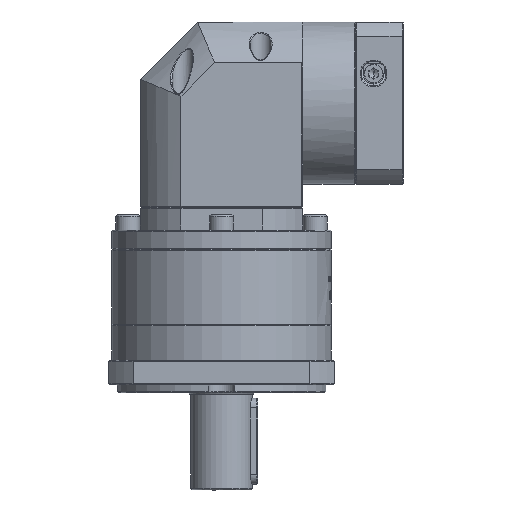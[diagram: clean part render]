
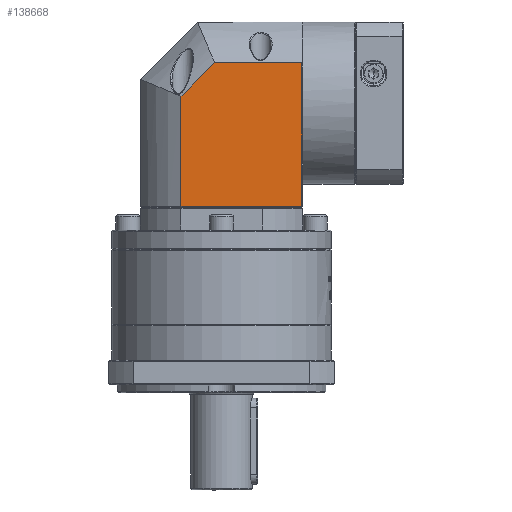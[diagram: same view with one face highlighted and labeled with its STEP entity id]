
A CAD part, front view. The second image highlights one B-rep face of the part: STEP entity #138668.
In plain terms, the highlighted planar face has unit normal (0, -1, 0).
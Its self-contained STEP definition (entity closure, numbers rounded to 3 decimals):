
#4782 = CARTESIAN_POINT ( 'NONE',  ( -44.321, -149.886, -38.442 ) ) ;
#5384 = VECTOR ( 'NONE', #98775, 1000. ) ;
#6949 = CARTESIAN_POINT ( 'NONE',  ( -44.321, -149.886, 19.241 ) ) ;
#13572 = EDGE_CURVE ( 'NONE', #102843, #139095, #149830, .T. ) ;
#20197 = LINE ( 'NONE', #167782, #5384 ) ;
#21088 = LINE ( 'NONE', #171768, #29588 ) ;
#21971 = EDGE_CURVE ( 'NONE', #38717, #90450, #20197, .T. ) ;
#27629 = DIRECTION ( 'NONE',  ( 0., 0., -1. ) ) ;
#29588 = VECTOR ( 'NONE', #64017, 1000. ) ;
#37347 = CARTESIAN_POINT ( 'NONE',  ( 18.892, -149.886, 36.772 ) ) ;
#38717 = VERTEX_POINT ( 'NONE', #4782 ) ;
#39312 = VERTEX_POINT ( 'NONE', #103209 ) ;
#44629 = VECTOR ( 'NONE', #128862, 1000. ) ;
#50514 = LINE ( 'NONE', #136485, #141986 ) ;
#58569 = ORIENTED_EDGE ( 'NONE', *, *, #135851, .F. ) ;
#64017 = DIRECTION ( 'NONE',  ( 1., 0., 0. ) ) ;
#64194 = CARTESIAN_POINT ( 'NONE',  ( -26.791, -149.886, 36.772 ) ) ;
#74541 = AXIS2_PLACEMENT_3D ( 'NONE', #155392, #142828, #116088 ) ;
#90450 = VERTEX_POINT ( 'NONE', #129637 ) ;
#94014 = DIRECTION ( 'NONE',  ( 1., 0., 0. ) ) ;
#98775 = DIRECTION ( 'NONE',  ( 0., 0., 1. ) ) ;
#101906 = LINE ( 'NONE', #6949, #44629 ) ;
#102843 = VERTEX_POINT ( 'NONE', #64194 ) ;
#103209 = CARTESIAN_POINT ( 'NONE',  ( 18.892, -149.886, -38.442 ) ) ;
#106540 = CARTESIAN_POINT ( 'NONE',  ( 19.392, -149.886, 36.772 ) ) ;
#114352 = PLANE ( 'NONE',  #74541 ) ;
#116088 = DIRECTION ( 'NONE',  ( -1., 0., 0. ) ) ;
#127189 = ORIENTED_EDGE ( 'NONE', *, *, #157636, .F. ) ;
#128862 = DIRECTION ( 'NONE',  ( 0.707, 0., 0.707 ) ) ;
#129637 = CARTESIAN_POINT ( 'NONE',  ( -44.321, -149.886, 19.241 ) ) ;
#133476 = EDGE_LOOP ( 'NONE', ( #157540, #127189, #176124, #58569, #157968 ) ) ;
#135851 = EDGE_CURVE ( 'NONE', #90450, #102843, #101906, .T. ) ;
#136485 = CARTESIAN_POINT ( 'NONE',  ( 18.892, -149.886, 58.058 ) ) ;
#138668 = ADVANCED_FACE ( 'NONE', ( #141095 ), #114352, .F. ) ;
#139095 = VERTEX_POINT ( 'NONE', #37347 ) ;
#141095 = FACE_OUTER_BOUND ( 'NONE', #133476, .T. ) ;
#141986 = VECTOR ( 'NONE', #27629, 1000. ) ;
#142828 = DIRECTION ( 'NONE',  ( 0., 1., 0. ) ) ;
#149830 = LINE ( 'NONE', #106540, #171081 ) ;
#155392 = CARTESIAN_POINT ( 'NONE',  ( 19.392, -149.886, 58.058 ) ) ;
#157059 = EDGE_CURVE ( 'NONE', #38717, #39312, #21088, .T. ) ;
#157540 = ORIENTED_EDGE ( 'NONE', *, *, #157059, .T. ) ;
#157636 = EDGE_CURVE ( 'NONE', #139095, #39312, #50514, .T. ) ;
#157968 = ORIENTED_EDGE ( 'NONE', *, *, #21971, .F. ) ;
#167782 = CARTESIAN_POINT ( 'NONE',  ( -44.321, -149.886, 58.058 ) ) ;
#171081 = VECTOR ( 'NONE', #94014, 1000. ) ;
#171768 = CARTESIAN_POINT ( 'NONE',  ( 19.392, -149.886, -38.442 ) ) ;
#176124 = ORIENTED_EDGE ( 'NONE', *, *, #13572, .F. ) ;
